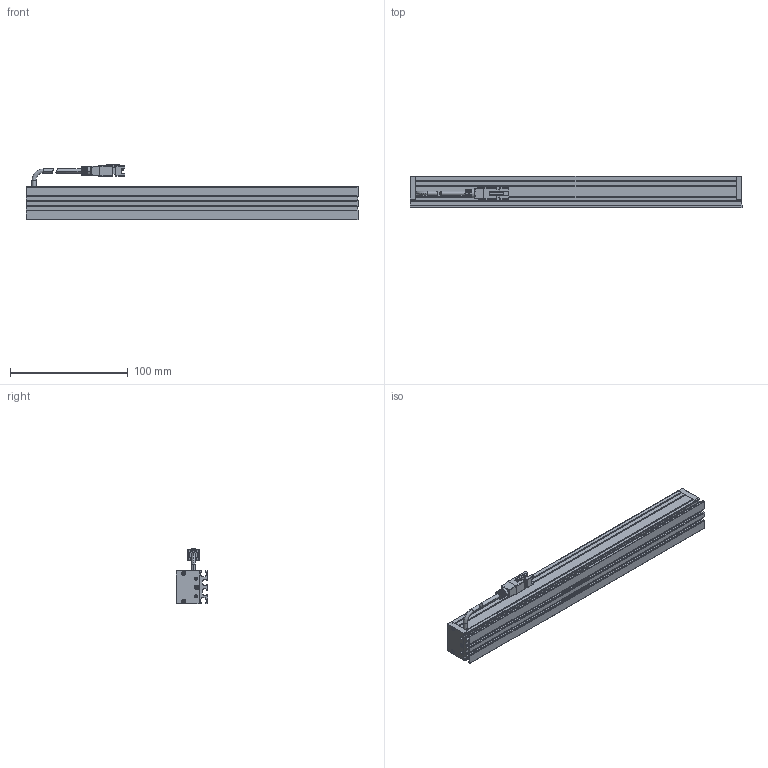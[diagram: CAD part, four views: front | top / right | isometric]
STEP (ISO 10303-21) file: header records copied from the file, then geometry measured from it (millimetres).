
FILE_DESCRIPTION (( 'STEP AP203' ), '1' );
FILE_NAME ('CK-BL28228.STEP', '2026-01-02T03:05:27', ( '' ), ( '' ), 'SwSTEP 2.0', 'SolidWorks 2022', '' );
FILE_SCHEMA (( 'CONFIG_CONTROL_DESIGN' ));
Length unit declared in the file: millimetre
Products named in the file (6): CK-BL28228; CK-BL28228-001A; 十字沉头螺丝 M2x10; CK-BL28228-002A; 光源线-01; CK-BL28228-003A
Assembly tree (11 placements, depth 2):
  CK-BL28228
    CK-BL28228-001A
    CK-BL28228-002A  x2
    CK-BL28228-003A
    光源线-01
    十字沉头螺丝 M2x10  x6
Bounding box: 282 x 27 x 47.34 mm (x, y, z)
Volume: 94467.9 mm3; surface area: 82922.4 mm2
Topology: 13 solids, 13 shells, 575 faces, 1494 edges, 950 vertices
Faces by surface type: plane 337, cylinder 172, cone 46, bspline 20
Entity records: 13997 total; most frequent: CARTESIAN_POINT 2782, ORIENTED_EDGE 2202, DIRECTION 2163, EDGE_CURVE 1101, LINE 781, VECTOR 781, VERTEX_POINT 714, AXIS2_PLACEMENT_3D 691
